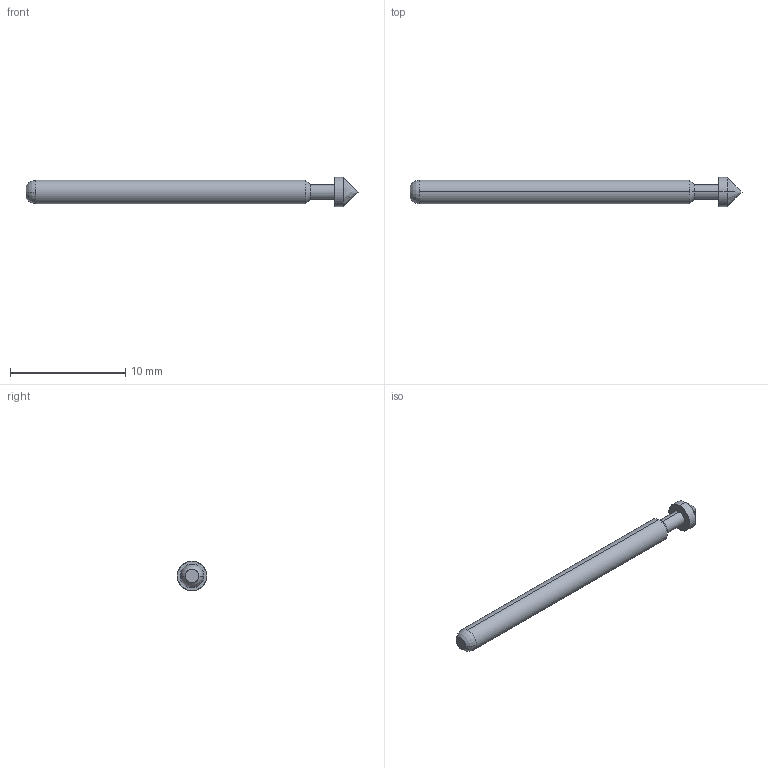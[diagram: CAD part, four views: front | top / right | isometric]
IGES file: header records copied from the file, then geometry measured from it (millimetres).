
Start section: SolidWorks IGES file using analytic representation for surfaces
Global section: file name: C:\Documents and Settings\mrumschlag\Desktop\changes\new\test\EPA-3E RECD.IGS; native system: SolidWorks 2008; preprocessor: SolidWorks 2008; author: mrumschlag; date: 110414.162812; units: inch
Bounding box: 28.78 x 2.54 x 2.54 mm (x, y, z)
Surface area: 184.1 mm2 (no closed solid volume)
Topology: 0 solids, 0 shells, 14 faces, 116 edges, 114 vertices
Faces by surface type: revolution 12, bspline 2
